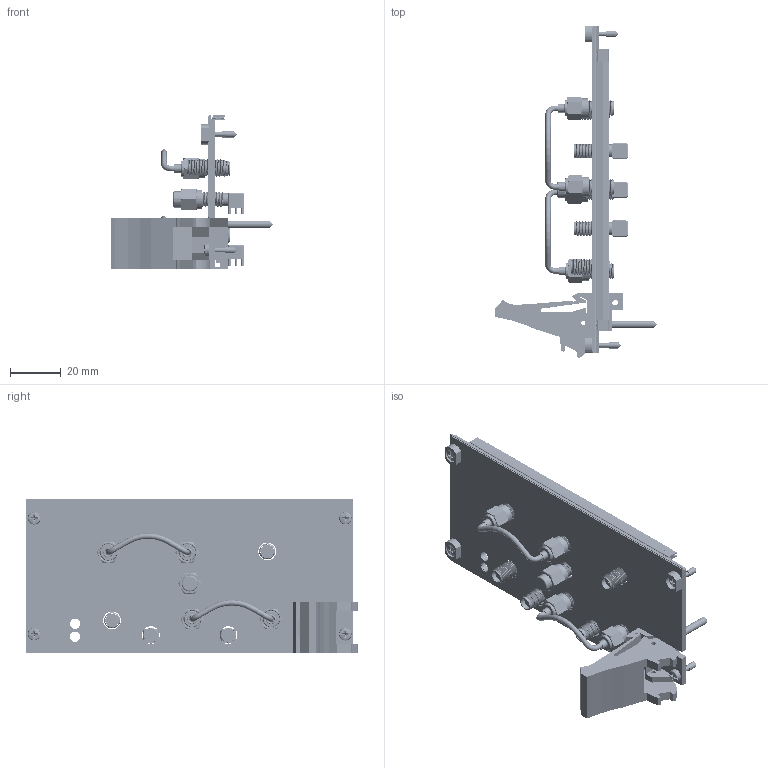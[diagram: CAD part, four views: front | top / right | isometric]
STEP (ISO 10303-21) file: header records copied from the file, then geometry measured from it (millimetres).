
FILE_DESCRIPTION((''),'2;1');
FILE_NAME('CD_PXIE-5632','2012-12-04T',('jjorden'),(''),'PRO/ENGINEER BY PARAMETRIC TECHNOLOGY CORPORATION, 2011490','PRO/ENGINEER BY PARAMETRIC TECHNOLOGY CORPORATION, 2011490','');
FILE_SCHEMA(('CONFIG_CONTROL_DESIGN'));
Length unit declared in the file: inch
Products named in the file (1): CD_PXIE-5632
Bounding box: 63.53 x 130.44 x 60.73 mm (x, y, z)
Volume: 30429.2 mm3; surface area: 38412.2 mm2
Topology: 13 solids, 28 shells, 2369 faces, 6330 edges, 4082 vertices
Faces by surface type: cylinder 1414, plane 586, cone 272, torus 66, bspline 21, sphere 10
Entity records: 146511 total; most frequent: CARTESIAN_POINT 90174, ORIENTED_EDGE 12434, DIRECTION 10645, EDGE_CURVE 6308, VERTEX_POINT 4082, AXIS2_PLACEMENT_3D 4049, EDGE_LOOP 2567, VECTOR 2547
